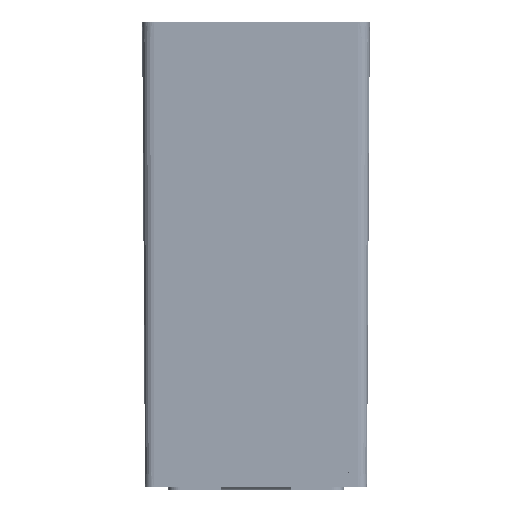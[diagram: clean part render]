
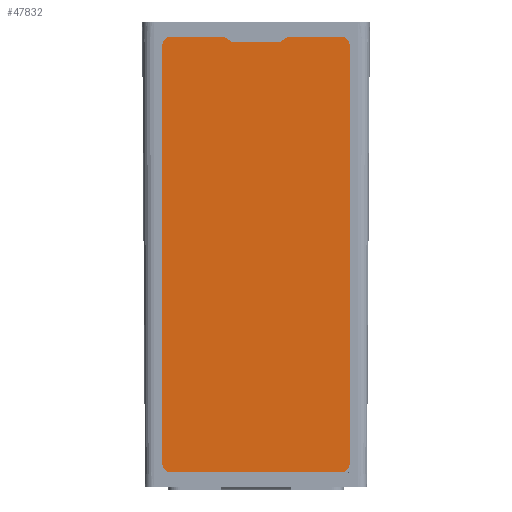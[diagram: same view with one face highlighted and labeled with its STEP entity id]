
A CAD part, left-side view. The second image highlights one B-rep face of the part: STEP entity #47832.
In plain terms, the highlighted planar face has unit normal (-1, 0, 0) as drawn and (0, 0, 1) by its records, which use the part's own axes.
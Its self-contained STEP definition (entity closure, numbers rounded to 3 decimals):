
#7284=CIRCLE('',#52913,1.);
#7292=CIRCLE('',#52924,1.);
#7293=CIRCLE('',#52927,1.);
#7294=CIRCLE('',#52930,1.);
#7295=CIRCLE('',#52935,1.5);
#7296=CIRCLE('',#52938,1.5);
#7297=CIRCLE('',#52940,1.5);
#7298=CIRCLE('',#52943,1.5);
#10703=FACE_OUTER_BOUND('',#13701,.T.);
#13701=EDGE_LOOP('',(#42899,#42900,#42901,#42902,#42903,#42904,#42905,#42906,
#42907,#42908,#42909,#42910,#42911,#42912,#42913,#42914));
#15465=LINE('',#156129,#17439);
#15475=LINE('',#156166,#17449);
#15478=LINE('',#156174,#17452);
#15481=LINE('',#156182,#17455);
#15483=LINE('',#156185,#17457);
#15485=LINE('',#156190,#17459);
#15488=LINE('',#156198,#17462);
#15491=LINE('',#156208,#17465);
#17439=VECTOR('',#63938,10.);
#17449=VECTOR('',#63970,10.);
#17452=VECTOR('',#63979,10.);
#17455=VECTOR('',#63988,10.);
#17457=VECTOR('',#63992,10.);
#17459=VECTOR('',#63996,10.);
#17462=VECTOR('',#64005,10.);
#17465=VECTOR('',#64018,10.);
#21877=VERTEX_POINT('',#156119);
#21878=VERTEX_POINT('',#156121);
#21880=VERTEX_POINT('',#156127);
#21894=VERTEX_POINT('',#156159);
#21895=VERTEX_POINT('',#156160);
#21896=VERTEX_POINT('',#156165);
#21897=VERTEX_POINT('',#156169);
#21898=VERTEX_POINT('',#156173);
#21899=VERTEX_POINT('',#156177);
#21900=VERTEX_POINT('',#156181);
#21901=VERTEX_POINT('',#156187);
#21902=VERTEX_POINT('',#156189);
#21903=VERTEX_POINT('',#156193);
#21904=VERTEX_POINT('',#156197);
#21905=VERTEX_POINT('',#156203);
#21906=VERTEX_POINT('',#156207);
#28959=EDGE_CURVE('',#21877,#21878,#7284,.T.);
#28963=EDGE_CURVE('',#21877,#21880,#15465,.T.);
#28978=EDGE_CURVE('',#21894,#21895,#7292,.T.);
#28981=EDGE_CURVE('',#21896,#21895,#15475,.T.);
#28983=EDGE_CURVE('',#21896,#21897,#7293,.T.);
#28985=EDGE_CURVE('',#21898,#21897,#15478,.T.);
#28987=EDGE_CURVE('',#21898,#21899,#7294,.T.);
#28989=EDGE_CURVE('',#21900,#21899,#15481,.T.);
#28991=EDGE_CURVE('',#21894,#21878,#15483,.T.);
#28993=EDGE_CURVE('',#21902,#21901,#15485,.T.);
#28995=EDGE_CURVE('',#21903,#21902,#7295,.T.);
#28997=EDGE_CURVE('',#21904,#21903,#15488,.T.);
#28999=EDGE_CURVE('',#21880,#21904,#7296,.T.);
#29000=EDGE_CURVE('',#21905,#21900,#7297,.T.);
#29002=EDGE_CURVE('',#21906,#21905,#15491,.T.);
#29004=EDGE_CURVE('',#21901,#21906,#7298,.T.);
#42899=ORIENTED_EDGE('',*,*,#28959,.F.);
#42900=ORIENTED_EDGE('',*,*,#28963,.T.);
#42901=ORIENTED_EDGE('',*,*,#28999,.T.);
#42902=ORIENTED_EDGE('',*,*,#28997,.T.);
#42903=ORIENTED_EDGE('',*,*,#28995,.T.);
#42904=ORIENTED_EDGE('',*,*,#28993,.T.);
#42905=ORIENTED_EDGE('',*,*,#29004,.T.);
#42906=ORIENTED_EDGE('',*,*,#29002,.T.);
#42907=ORIENTED_EDGE('',*,*,#29000,.T.);
#42908=ORIENTED_EDGE('',*,*,#28989,.T.);
#42909=ORIENTED_EDGE('',*,*,#28987,.F.);
#42910=ORIENTED_EDGE('',*,*,#28985,.T.);
#42911=ORIENTED_EDGE('',*,*,#28983,.F.);
#42912=ORIENTED_EDGE('',*,*,#28981,.T.);
#42913=ORIENTED_EDGE('',*,*,#28978,.F.);
#42914=ORIENTED_EDGE('',*,*,#28991,.T.);
#45101=PLANE('',#52944);
#47832=ADVANCED_FACE('',(#10703),#45101,.T.);
#52913=AXIS2_PLACEMENT_3D('',#156122,#63931,#63932);
#52924=AXIS2_PLACEMENT_3D('',#156161,#63964,#63965);
#52927=AXIS2_PLACEMENT_3D('',#156170,#63974,#63975);
#52930=AXIS2_PLACEMENT_3D('',#156178,#63983,#63984);
#52935=AXIS2_PLACEMENT_3D('',#156194,#64000,#64001);
#52938=AXIS2_PLACEMENT_3D('',#156201,#64009,#64010);
#52940=AXIS2_PLACEMENT_3D('',#156204,#64013,#64014);
#52943=AXIS2_PLACEMENT_3D('',#156211,#64022,#64023);
#52944=AXIS2_PLACEMENT_3D('',#156212,#64024,#64025);
#63931=DIRECTION('center_axis',(0.,0.,-1.));
#63932=DIRECTION('ref_axis',(-0.29,-0.957,0.));
#63938=DIRECTION('',(1.,0.,0.));
#63964=DIRECTION('center_axis',(0.,0.,1.));
#63965=DIRECTION('ref_axis',(0.29,0.957,0.));
#63970=DIRECTION('',(1.,0.,0.));
#63974=DIRECTION('center_axis',(0.,0.,1.));
#63975=DIRECTION('ref_axis',(-0.29,0.957,0.));
#63979=DIRECTION('',(0.832,0.555,0.));
#63983=DIRECTION('center_axis',(0.,0.,-1.));
#63984=DIRECTION('ref_axis',(0.29,-0.957,0.));
#63988=DIRECTION('',(1.,0.,0.));
#63992=DIRECTION('',(0.832,-0.555,0.));
#63996=DIRECTION('',(-1.,0.,0.));
#64000=DIRECTION('center_axis',(0.,0.,1.));
#64001=DIRECTION('ref_axis',(1.,0.,0.));
#64005=DIRECTION('',(0.,1.,0.));
#64009=DIRECTION('center_axis',(0.,0.,1.));
#64010=DIRECTION('ref_axis',(0.,-1.,0.));
#64013=DIRECTION('center_axis',(0.,0.,1.));
#64014=DIRECTION('ref_axis',(-1.,0.,0.));
#64018=DIRECTION('',(0.,-1.,0.));
#64022=DIRECTION('center_axis',(0.,0.,1.));
#64023=DIRECTION('ref_axis',(0.,1.,0.));
#64024=DIRECTION('center_axis',(0.,0.,1.));
#64025=DIRECTION('ref_axis',(1.,0.,0.));
#156119=CARTESIAN_POINT('',(5.803,-37.25,1.));
#156121=CARTESIAN_POINT('',(5.248,-37.082,1.));
#156122=CARTESIAN_POINT('Origin',(5.803,-36.25,1.));
#156127=CARTESIAN_POINT('',(14.5,-37.25,1.));
#156129=CARTESIAN_POINT('',(-14.5,-37.25,1.));
#156159=CARTESIAN_POINT('',(4.252,-36.418,1.));
#156160=CARTESIAN_POINT('',(3.697,-36.25,1.));
#156161=CARTESIAN_POINT('Origin',(3.697,-37.25,1.));
#156165=CARTESIAN_POINT('',(-3.697,-36.25,1.));
#156166=CARTESIAN_POINT('',(-2.,-36.25,1.));
#156169=CARTESIAN_POINT('',(-4.252,-36.418,1.));
#156170=CARTESIAN_POINT('Origin',(-3.697,-37.25,1.));
#156173=CARTESIAN_POINT('',(-5.248,-37.082,1.));
#156174=CARTESIAN_POINT('',(5.,-30.25,1.));
#156177=CARTESIAN_POINT('',(-5.803,-37.25,1.));
#156178=CARTESIAN_POINT('Origin',(-5.803,-36.25,1.));
#156181=CARTESIAN_POINT('',(-14.5,-37.25,1.));
#156182=CARTESIAN_POINT('',(-14.5,-37.25,1.));
#156185=CARTESIAN_POINT('',(-5.75,-29.75,1.));
#156187=CARTESIAN_POINT('',(-14.5,37.25,1.));
#156189=CARTESIAN_POINT('',(14.5,37.25,1.));
#156190=CARTESIAN_POINT('',(14.5,37.25,1.));
#156193=CARTESIAN_POINT('',(16.,35.75,1.));
#156194=CARTESIAN_POINT('Origin',(14.5,35.75,1.));
#156197=CARTESIAN_POINT('',(16.,-35.75,1.));
#156198=CARTESIAN_POINT('',(16.,-35.75,1.));
#156201=CARTESIAN_POINT('Origin',(14.5,-35.75,1.));
#156203=CARTESIAN_POINT('',(-16.,-35.75,1.));
#156204=CARTESIAN_POINT('Origin',(-14.5,-35.75,1.));
#156207=CARTESIAN_POINT('',(-16.,35.75,1.));
#156208=CARTESIAN_POINT('',(-16.,35.75,1.));
#156211=CARTESIAN_POINT('Origin',(-14.5,35.75,1.));
#156212=CARTESIAN_POINT('Origin',(0.,0.,
1.));
